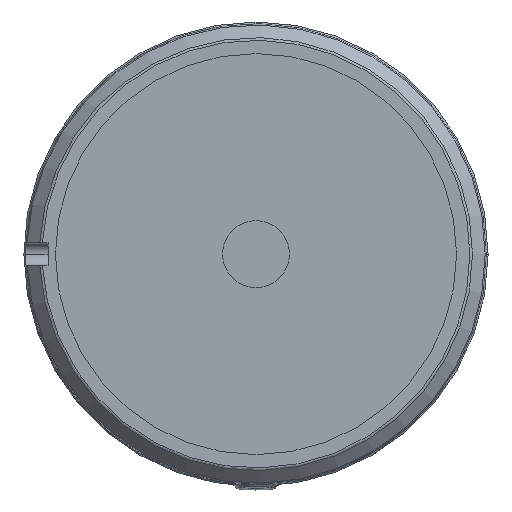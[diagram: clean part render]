
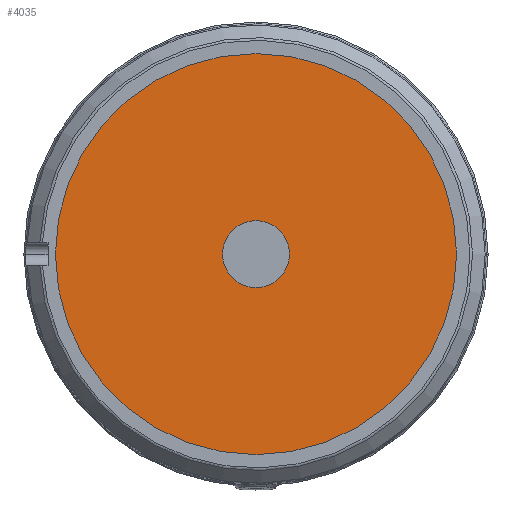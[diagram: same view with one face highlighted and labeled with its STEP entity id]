
A CAD part, left-side view. The second image highlights one B-rep face of the part: STEP entity #4035.
In plain terms, the highlighted planar face has unit normal (-1, 0, 0).
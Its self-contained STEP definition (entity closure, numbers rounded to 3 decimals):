
#21 = DIRECTION ( 'NONE',  ( 0., 1., 0. ) ) ;
#170 = EDGE_CURVE ( 'NONE', #3340, #2358, #1070, .T. ) ;
#183 = CIRCLE ( 'NONE', #1795, 9. ) ;
#209 = PLANE ( 'NONE',  #3717 ) ;
#358 = EDGE_LOOP ( 'NONE', ( #1896, #2623 ) ) ;
#514 = CIRCLE ( 'NONE', #2604, 54. ) ;
#628 = CARTESIAN_POINT ( 'NONE',  ( 1871.1, -9., 1800. ) ) ;
#795 = FACE_OUTER_BOUND ( 'NONE', #358, .T. ) ;
#859 = CARTESIAN_POINT ( 'NONE',  ( 1871.1, -54., 1800. ) ) ;
#868 = CARTESIAN_POINT ( 'NONE',  ( 1871.1, 0., 1800. ) ) ;
#1070 = CIRCLE ( 'NONE', #3359, 9. ) ;
#1108 = DIRECTION ( 'NONE',  ( 1., 0., 0. ) ) ;
#1383 = EDGE_CURVE ( 'NONE', #3662, #1642, #3569, .T. ) ;
#1498 = EDGE_LOOP ( 'NONE', ( #2880, #2868 ) ) ;
#1605 = CARTESIAN_POINT ( 'NONE',  ( 1871.1, 0., 1800. ) ) ;
#1642 = VERTEX_POINT ( 'NONE', #2864 ) ;
#1748 = CARTESIAN_POINT ( 'NONE',  ( 1871.1, 0., 1815. ) ) ;
#1795 = AXIS2_PLACEMENT_3D ( 'NONE', #868, #1108, #3653 ) ;
#1896 = ORIENTED_EDGE ( 'NONE', *, *, #1383, .T. ) ;
#2131 = AXIS2_PLACEMENT_3D ( 'NONE', #2555, #2249, #3742 ) ;
#2249 = DIRECTION ( 'NONE',  ( -1., 0., 0. ) ) ;
#2358 = VERTEX_POINT ( 'NONE', #628 ) ;
#2436 = DIRECTION ( 'NONE',  ( 0., -1., 0. ) ) ;
#2456 = DIRECTION ( 'NONE',  ( -1., 0., 0. ) ) ;
#2542 = EDGE_CURVE ( 'NONE', #2358, #3340, #183, .T. ) ;
#2555 = CARTESIAN_POINT ( 'NONE',  ( 1871.1, 0., 1800. ) ) ;
#2604 = AXIS2_PLACEMENT_3D ( 'NONE', #3621, #2456, #2436 ) ;
#2623 = ORIENTED_EDGE ( 'NONE', *, *, #3387, .T. ) ;
#2709 = DIRECTION ( 'NONE',  ( 0., 1., 0. ) ) ;
#2864 = CARTESIAN_POINT ( 'NONE',  ( 1871.1, 54., 1800. ) ) ;
#2868 = ORIENTED_EDGE ( 'NONE', *, *, #170, .T. ) ;
#2880 = ORIENTED_EDGE ( 'NONE', *, *, #2542, .T. ) ;
#3340 = VERTEX_POINT ( 'NONE', #4038 ) ;
#3359 = AXIS2_PLACEMENT_3D ( 'NONE', #1605, #3472, #21 ) ;
#3387 = EDGE_CURVE ( 'NONE', #1642, #3662, #514, .T. ) ;
#3472 = DIRECTION ( 'NONE',  ( 1., 0., 0. ) ) ;
#3569 = CIRCLE ( 'NONE', #2131, 54. ) ;
#3621 = CARTESIAN_POINT ( 'NONE',  ( 1871.1, 0., 1800. ) ) ;
#3653 = DIRECTION ( 'NONE',  ( 0., 1., 0. ) ) ;
#3662 = VERTEX_POINT ( 'NONE', #859 ) ;
#3717 = AXIS2_PLACEMENT_3D ( 'NONE', #1748, #3958, #2709 ) ;
#3742 = DIRECTION ( 'NONE',  ( 0., -1., 0. ) ) ;
#3920 = FACE_BOUND ( 'NONE', #1498, .T. ) ;
#3958 = DIRECTION ( 'NONE',  ( 1., 0., 0. ) ) ;
#4035 = ADVANCED_FACE ( 'NONE', ( #795, #3920 ), #209, .F. ) ;
#4038 = CARTESIAN_POINT ( 'NONE',  ( 1871.1, 9., 1800. ) ) ;
